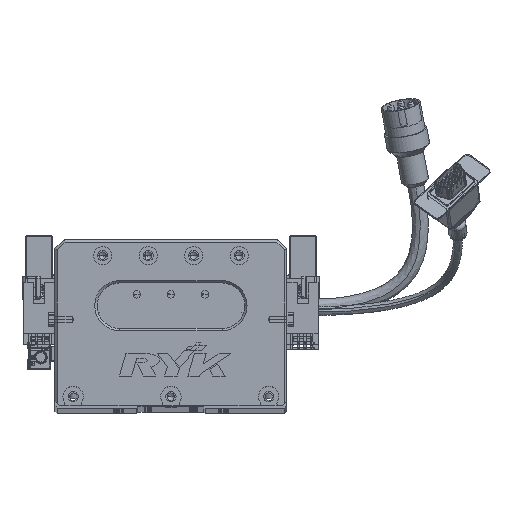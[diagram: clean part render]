
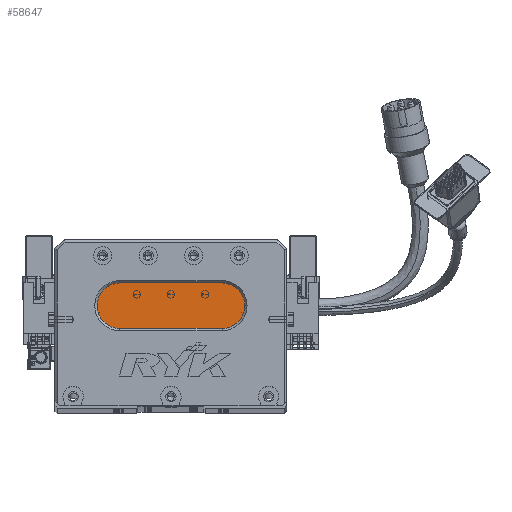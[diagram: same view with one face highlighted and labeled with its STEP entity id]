
A CAD part, top view. The second image highlights one B-rep face of the part: STEP entity #58647.
In plain terms, the highlighted planar face has unit normal (0, 0, 1) as drawn and (0, 0, -1) by its records, which use the part's own axes.
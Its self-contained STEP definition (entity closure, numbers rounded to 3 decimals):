
#1772 = LINE ( 'NONE', #37788, #37765 ) ;
#2709 = ORIENTED_EDGE ( 'NONE', *, *, #48914, .T. ) ;
#3780 = CARTESIAN_POINT ( 'NONE',  ( 73.5, 44., 13. ) ) ;
#8909 = PLANE ( 'NONE',  #29081 ) ;
#12084 = ORIENTED_EDGE ( 'NONE', *, *, #25549, .T. ) ;
#12650 = VERTEX_POINT ( 'NONE', #63084 ) ;
#17678 = VERTEX_POINT ( 'NONE', #33147 ) ;
#19232 = CIRCLE ( 'NONE', #40382, 10. ) ;
#20603 = ORIENTED_EDGE ( 'NONE', *, *, #63573, .T. ) ;
#20731 = CIRCLE ( 'NONE', #69843, 10. ) ;
#25549 = EDGE_CURVE ( 'NONE', #49356, #63609, #49583, .T. ) ;
#26184 = ORIENTED_EDGE ( 'NONE', *, *, #30025, .T. ) ;
#29081 = AXIS2_PLACEMENT_3D ( 'NONE', #3780, #59350, #42333 ) ;
#29656 = CARTESIAN_POINT ( 'NONE',  ( 28.5, 34., 13. ) ) ;
#29985 = AXIS2_PLACEMENT_3D ( 'NONE', #43421, #71984, #60667 ) ;
#30025 = EDGE_CURVE ( 'NONE', #40358, #12650, #60621, .T. ) ;
#30399 = CARTESIAN_POINT ( 'NONE',  ( 18.5, 44., 13. ) ) ;
#31543 = CARTESIAN_POINT ( 'NONE',  ( 73.5, 54., 13. ) ) ;
#31799 = DIRECTION ( 'NONE',  ( 1., 0., 0. ) ) ;
#33147 = CARTESIAN_POINT ( 'NONE',  ( 73.5, 34., 13. ) ) ;
#35758 = CARTESIAN_POINT ( 'NONE',  ( 28.5, 54., 13. ) ) ;
#37765 = VECTOR ( 'NONE', #54304, 1000. ) ;
#37788 = CARTESIAN_POINT ( 'NONE',  ( 73.5, 34., 13. ) ) ;
#39362 = DIRECTION ( 'NONE',  ( 0., 0., -1. ) ) ;
#40358 = VERTEX_POINT ( 'NONE', #35758 ) ;
#40382 = AXIS2_PLACEMENT_3D ( 'NONE', #72600, #39362, #44985 ) ;
#41184 = EDGE_CURVE ( 'NONE', #63609, #40358, #19232, .T. ) ;
#42333 = DIRECTION ( 'NONE',  ( -1., 0., 0. ) ) ;
#43421 = CARTESIAN_POINT ( 'NONE',  ( 28.5, 44., 13. ) ) ;
#44985 = DIRECTION ( 'NONE',  ( -1., 0., 0. ) ) ;
#45568 = ORIENTED_EDGE ( 'NONE', *, *, #41184, .T. ) ;
#48914 = EDGE_CURVE ( 'NONE', #17678, #49356, #1772, .T. ) ;
#49356 = VERTEX_POINT ( 'NONE', #29656 ) ;
#49583 = CIRCLE ( 'NONE', #29985, 10. ) ;
#50041 = VECTOR ( 'NONE', #31799, 1000. ) ;
#52019 = CARTESIAN_POINT ( 'NONE',  ( 73.5, 44., 13. ) ) ;
#52271 = DIRECTION ( 'NONE',  ( -1., 0., 0. ) ) ;
#54304 = DIRECTION ( 'NONE',  ( -1., 0., 0. ) ) ;
#55967 = FACE_OUTER_BOUND ( 'NONE', #67018, .T. ) ;
#58647 = ADVANCED_FACE ( 'NONE', ( #55967 ), #8909, .T. ) ;
#59350 = DIRECTION ( 'NONE',  ( 0., 0., -1. ) ) ;
#60621 = LINE ( 'NONE', #31543, #50041 ) ;
#60667 = DIRECTION ( 'NONE',  ( -1., 0., 0. ) ) ;
#63084 = CARTESIAN_POINT ( 'NONE',  ( 73.5, 54., 13. ) ) ;
#63573 = EDGE_CURVE ( 'NONE', #12650, #17678, #20731, .T. ) ;
#63609 = VERTEX_POINT ( 'NONE', #30399 ) ;
#67018 = EDGE_LOOP ( 'NONE', ( #20603, #2709, #12084, #45568, #26184 ) ) ;
#68316 = DIRECTION ( 'NONE',  ( 0., 0., -1. ) ) ;
#69843 = AXIS2_PLACEMENT_3D ( 'NONE', #52019, #68316, #52271 ) ;
#71984 = DIRECTION ( 'NONE',  ( 0., 0., -1. ) ) ;
#72600 = CARTESIAN_POINT ( 'NONE',  ( 28.5, 44., 13. ) ) ;
